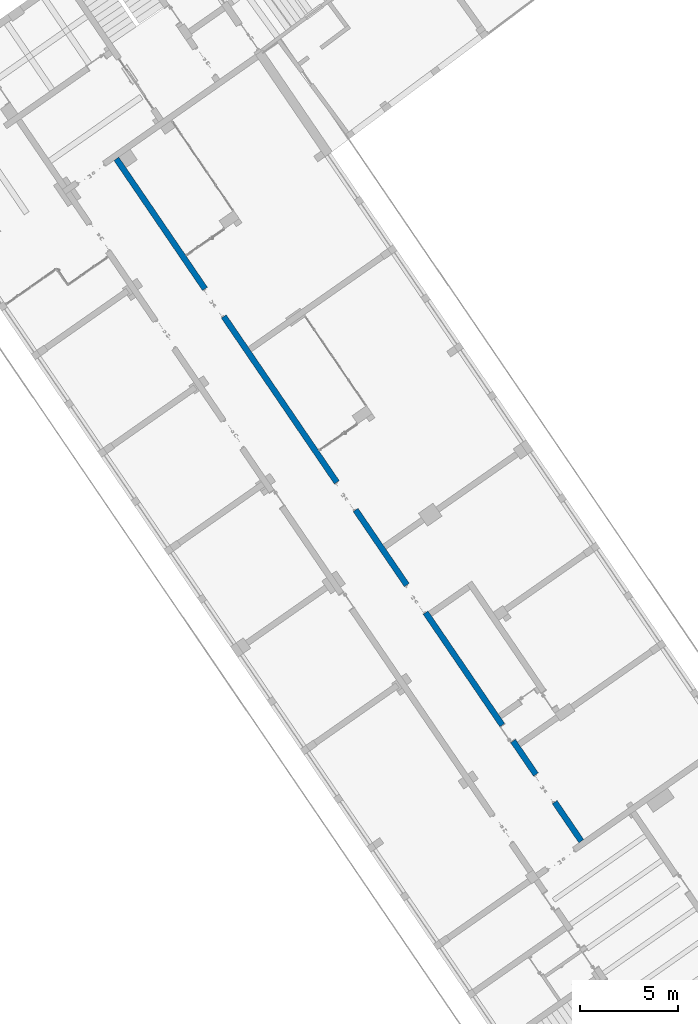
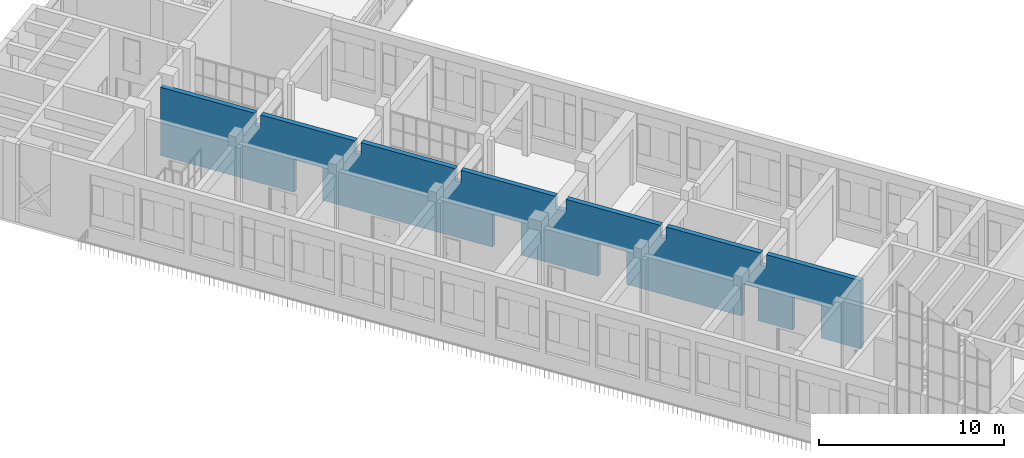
# One storey, part 125 of 157: 1 wall, 5 openings.
"""IFC2X3 building model written with IfcOpenShell, lengths in millimetres."""

from ifc_helpers import new_model, entity, si_unit, converted_unit, derived_unit, direction, frame, frame_2d, origin, place, context, subcontext, project, spatial, rectangle, extrude, faceted_brep, material, layer, layer_set, type_object, element, save


model = new_model("IFC2X3")

# Units and contexts
model_context = context("Model", 3, precision=0.01, world=origin(), true_north=direction((6.123031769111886e-17, 1.0)))
body_context = subcontext(model_context, "Body", "Model", "MODEL_VIEW")
ifc_project = project(units=[si_unit("LENGTHUNIT", "METRE", prefix="MILLI"), si_unit("AREAUNIT", "SQUARE_METRE"), si_unit("VOLUMEUNIT", "CUBIC_METRE"), converted_unit("PLANEANGLEUNIT", "DEGREE", entity("IfcRatioMeasure", 0.017453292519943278), si_unit("PLANEANGLEUNIT", "RADIAN"), dimensions=[0, 0, 0, 0, 0, 0, 0]), si_unit("MASSUNIT", "GRAM", prefix="KILO"), derived_unit("MASSDENSITYUNIT", [(si_unit("MASSUNIT", "GRAM", prefix="KILO"), 1), (si_unit("LENGTHUNIT", "METRE"), -3)]), derived_unit("MOMENTOFINERTIAUNIT", [(si_unit("LENGTHUNIT", "METRE"), 4)]), si_unit("TIMEUNIT", "SECOND"), si_unit("FREQUENCYUNIT", "HERTZ"), si_unit("THERMODYNAMICTEMPERATUREUNIT", "DEGREE_CELSIUS"), derived_unit("THERMALTRANSMITTANCEUNIT", [(si_unit("MASSUNIT", "GRAM", prefix="KILO"), 1), (si_unit("THERMODYNAMICTEMPERATUREUNIT", "KELVIN"), -1), (si_unit("TIMEUNIT", "SECOND"), -3)]), derived_unit("THERMALCONDUCTANCEUNIT", [(si_unit("MASSUNIT", "GRAM", prefix="KILO"), 1), (si_unit("LENGTHUNIT", "METRE"), 1), (si_unit("THERMODYNAMICTEMPERATUREUNIT", "KELVIN"), -1), (si_unit("TIMEUNIT", "SECOND"), -3)]), derived_unit("VOLUMETRICFLOWRATEUNIT", [(si_unit("LENGTHUNIT", "METRE"), 3), (si_unit("TIMEUNIT", "SECOND"), -1)]), derived_unit("MASSFLOWRATEUNIT", [(si_unit("MASSUNIT", "GRAM", prefix="KILO"), 1), (si_unit("TIMEUNIT", "SECOND"), -1)]), derived_unit("ROTATIONALFREQUENCYUNIT", [(si_unit("TIMEUNIT", "SECOND"), -1)]), si_unit("ELECTRICCURRENTUNIT", "AMPERE"), si_unit("ELECTRICVOLTAGEUNIT", "VOLT"), si_unit("POWERUNIT", "WATT"), converted_unit("FORCEUNIT", "KIP", entity("IfcRatioMeasure", 2.088543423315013e-05), si_unit("FORCEUNIT", "NEWTON"), dimensions=[1, 1, -2, 0, 0, 0, 0]), si_unit("ILLUMINANCEUNIT", "LUX"), si_unit("LUMINOUSFLUXUNIT", "LUMEN"), si_unit("LUMINOUSINTENSITYUNIT", "CANDELA"), derived_unit("USERDEFINED", [(si_unit("MASSUNIT", "GRAM", prefix="KILO"), -1), (si_unit("LENGTHUNIT", "METRE"), -2), (si_unit("TIMEUNIT", "SECOND"), 3), (si_unit("LUMINOUSFLUXUNIT", "LUMEN"), 1)]), derived_unit("USERDEFINED", [(si_unit("MASSUNIT", "GRAM", prefix="KILO"), 1), (si_unit("LENGTHUNIT", "METRE"), 3), (si_unit("TIMEUNIT", "SECOND"), -3), (si_unit("ELECTRICCURRENTUNIT", "AMPERE"), -2)]), derived_unit("USERDEFINED", [(si_unit("LENGTHUNIT", "METRE"), 2), (si_unit("TIMEUNIT", "SECOND"), -2)]), derived_unit("SOUNDPOWERUNIT", [(si_unit("MASSUNIT", "GRAM", prefix="KILO"), 1), (si_unit("LENGTHUNIT", "METRE"), 2), (si_unit("TIMEUNIT", "SECOND"), -3)]), derived_unit("SOUNDPRESSUREUNIT", [(si_unit("MASSUNIT", "GRAM", prefix="KILO"), 1), (si_unit("LENGTHUNIT", "METRE"), -1), (si_unit("TIMEUNIT", "SECOND"), -2)]), derived_unit("LINEARVELOCITYUNIT", [(si_unit("LENGTHUNIT", "METRE"), 1), (si_unit("TIMEUNIT", "SECOND"), -1)]), si_unit("PRESSUREUNIT", "PASCAL"), derived_unit("USERDEFINED", [(si_unit("LENGTHUNIT", "METRE"), -2), (si_unit("MASSUNIT", "GRAM", prefix="KILO"), 1), (si_unit("TIMEUNIT", "SECOND"), -2)]), derived_unit("LINEARFORCEUNIT", [(si_unit("MASSUNIT", "GRAM", prefix="KILO"), 1), (si_unit("LENGTHUNIT", "METRE"), 1), (si_unit("TIMEUNIT", "SECOND"), -2), (si_unit("LENGTHUNIT", "METRE"), -1)]), derived_unit("PLANARFORCEUNIT", [(si_unit("MASSUNIT", "GRAM", prefix="KILO"), 1), (si_unit("LENGTHUNIT", "METRE"), 1), (si_unit("TIMEUNIT", "SECOND"), -2), (si_unit("LENGTHUNIT", "METRE"), -2)]), derived_unit("SPECIFICHEATCAPACITYUNIT", [(si_unit("LENGTHUNIT", "METRE"), 2), (si_unit("TIMEUNIT", "SECOND"), -2), (si_unit("THERMODYNAMICTEMPERATUREUNIT", "KELVIN"), -1)]), derived_unit("VAPORPERMEABILITYUNIT", [(si_unit("TIMEUNIT", "SECOND"), 1), (si_unit("LENGTHUNIT", "METRE"), -1)]), derived_unit("DYNAMICVISCOSITYUNIT", [(si_unit("MASSUNIT", "GRAM", prefix="KILO"), 1), (si_unit("LENGTHUNIT", "METRE"), -1), (si_unit("TIMEUNIT", "SECOND"), -1)]), derived_unit("THERMALEXPANSIONCOEFFICIENTUNIT", [(si_unit("THERMODYNAMICTEMPERATUREUNIT", "KELVIN"), -1)])], contexts=[model_context])

# Site, building, storey
site_placement = place(None, frame((0.0, 0.0, 0.0), z_axis=(0.0, 0.0, 1.0), x_axis=(0.8191520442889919, 0.5735764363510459, 0.0)))
site = spatial("IfcSite", under=ifc_project, at=site_placement, Name="Default", CompositionType="ELEMENT")
building_placement = place(site_placement, origin())
building = spatial("IfcBuilding", under=site, at=building_placement, CompositionType="ELEMENT")
storey_placement = place(building_placement, origin())
storey = spatial("IfcBuildingStorey", under=building, at=storey_placement, Name="1.EG +0.00", CompositionType="ELEMENT", Elevation=-4.331468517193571e-12)

# Wall, openings
ifc_material = material(Name="Analytical Wall Surface_CJC")
ifc_layer = layer(ifc_material, 300.0)
ifc_layer_set = layer_set([ifc_layer], Name="Basic Wall:Wand_Innen_30")
wall_type = type_object("IfcWallType", Name="Basic Wall:Wand_Innen_30", PredefinedType="STANDARD", material=ifc_layer_set)
wall_placement = place(storey_placement, frame((-213844.2878679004, 121844.44947620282, 0.0), z_axis=(0.0, 0.0, 1.0), x_axis=(0.012729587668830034, 0.9999189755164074, 0.0)))
wall = element("IfcWall", 1, at=wall_placement, inside=storey, type_object=wall_type, Name="Basic Wall:Wand_Innen_30", ObjectType="Basic Wall:Wand_Innen_30", context=body_context, shape_type="Brep", body=[
    faceted_brep([(6029.30739781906, -150.0, 4500.0), (6029.307397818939, -150.0, 3700.0), (6004.305372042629, -150.0, 3700.0), (5704.281062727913, -150.0, 3700.0), (5679.2790369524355, -150.0, 3700.0), (5679.279036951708, -150.0, 4500.0), (3.8191857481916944, -150.0, 4500.0), (3.8191857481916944, -150.0, 0.0), (2403.311508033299, -150.0, 0.0), (2403.3115080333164, -150.0, 2200.0), (4103.311508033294, -150.0, 2200.0), (4103.311508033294, -150.0, 0.0), (5704.281062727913, -150.0, 0.0), (6004.305372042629, -150.0, 0.0), (6162.3615080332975, -150.0, 0.0), (6162.361508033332, -150.0, 2150.0), (7142.361508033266, -150.0, 2150.0), (7142.361508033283, -150.0, 0.0), (7429.4208412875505, -150.0, 0.0), (7729.445150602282, -150.0, 0.0), (13729.93133689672, -150.0, 0.0), (14029.955646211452, -150.0, 0.0), (14062.36150803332, -150.0, 0.0), (14062.361508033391, -150.0, 2200.0), (15762.361508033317, -150.0, 2200.0), (15762.361508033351, -150.0, 0.0), (17855.265589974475, -150.0, 0.0), (18155.289899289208, -150.0, 0.0), (20381.411508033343, -150.0, 0.0), (20381.411508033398, -150.0, 2200.0), (22081.41150803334, -150.0, 2200.0), (22081.411508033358, -150.0, 0.0), (30006.25011722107, -150.0, 0.0), (30306.2744265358, -150.0, 0.0), (32280.461508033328, -150.0, 0.0), (32280.461508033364, -150.0, 2200.0), (33980.46150803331, -150.0, 2200.0), (33980.461508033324, -150.0, 0.0), (41341.07938198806, -150.0, 0.0), (41982.22046403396, -150.0, 0.0), (41982.22046403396, -150.0, 4500.0), (41341.07938198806, -150.0, 4500.0), (36331.76263860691, -150.0, 4500.0), (36331.76263860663, -150.0, 3700.0), (35981.73427773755, -150.0, 3700.0), (35981.73427773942, -150.0, 4500.0), (30331.276452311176, -150.0, 4500.0), (30331.276452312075, -150.0, 3700.0), (30306.2744265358, -150.0, 3700.0), (30006.25011722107, -150.0, 3700.0), (29981.248091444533, -150.0, 3700.0), (29981.248091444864, -150.0, 4500.0), (24330.79026601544, -150.0, 4500.0), (24330.79026601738, -150.0, 3700.0), (23980.761905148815, -150.0, 3700.0), (23980.76190515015, -150.0, 4500.0), (18330.304079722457, -150.0, 4500.0), (18330.30407972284, -150.0, 3700.0), (18155.289899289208, -150.0, 3700.0), (17855.265589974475, -150.0, 3700.0), (17680.251409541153, -150.0, 3700.0), (17680.25140954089, -150.0, 4500.0), (14029.955646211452, -150.0, 4500.0), (13729.93133689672, -150.0, 4500.0), (12029.793584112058, -150.0, 4500.0), (12029.793584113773, -150.0, 3700.0), (11679.765223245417, -150.0, 3700.0), (11679.765223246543, -150.0, 4500.0), (7729.445150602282, -150.0, 4500.0), (7429.4208412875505, -150.0, 4500.0), (6025.488212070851, 150.0, 3700.0), (6025.488212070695, 150.0, 4500.0), (11675.946037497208, 150.0, 4500.0), (11675.946037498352, 150.0, 3700.0), (12025.974398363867, 150.0, 3700.0), (12025.97439836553, 150.0, 4500.0), (17676.432223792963, 150.0, 4500.0), (17676.432223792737, 150.0, 3700.0), (18326.484893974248, 150.0, 3700.0), (18326.48489397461, 150.0, 4500.0), (23976.942719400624, 150.0, 4500.0), (23976.94271940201, 150.0, 3700.0), (24326.97108026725, 150.0, 3700.0), (24326.971080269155, 150.0, 4500.0), (29977.428905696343, 150.0, 4500.0), (29977.428905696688, 150.0, 3700.0), (30327.457266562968, 150.0, 3700.0), (30327.45726656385, 150.0, 4500.0), (35977.91509198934, 150.0, 4500.0), (35977.91509199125, 150.0, 3700.0), (36327.94345285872, 150.0, 3700.0), (36327.94345285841, 150.0, 4500.0), (41978.40127828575, 150.0, 4500.0), (41978.40127828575, 150.0, 0.0), (33980.46150803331, 150.0, 0.0), (33980.46150803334, 150.0, 2200.0), (32280.461508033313, 150.0, 2200.0), (32280.461508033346, 150.0, 0.0), (22081.41150803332, 150.0, 0.0), (22081.411508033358, 150.0, 2200.0), (20381.41150803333, 150.0, 2200.0), (20381.411508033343, 150.0, 0.0), (15762.361508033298, 150.0, 0.0), (15762.361508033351, 150.0, 2200.0), (14062.361508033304, 150.0, 2200.0), (14062.361508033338, 150.0, 0.0), (7142.361508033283, 150.0, 0.0), (7142.3615080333, 150.0, 2150.0), (6162.3615080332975, 150.0, 2150.0), (6162.3615080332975, 150.0, 0.0), (4103.311508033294, 150.0, 0.0), (4103.311508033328, 150.0, 2200.0), (2403.311508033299, 150.0, 2200.0), (2403.311508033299, 150.0, 0.0), (0.0, 150.0, 0.0), (0.0, 150.0, 4500.0), (5675.459851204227, 150.0, 4500.0), (5675.459851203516, 150.0, 3700.0), (41980.94755684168, -50.0121536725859, 4500.0)], [[[0, 1, 2, 3, 4, 5, 6, 7, 8, 9, 10, 11, 12, 13, 14, 15, 16, 17, 18, 19, 20, 21, 22, 23, 24, 25, 26, 27, 28, 29, 30, 31, 32, 33, 34, 35, 36, 37, 38, 39, 40, 41, 42, 43, 44, 45, 46, 47, 48, 49, 50, 51, 52, 53, 54, 55, 56, 57, 58, 59, 60, 61, 62, 63, 64, 65, 66, 67, 68, 69]], [[70, 71, 72, 73, 74, 75, 76, 77, 78, 79, 80, 81, 82, 83, 84, 85, 86, 87, 88, 89, 90, 91, 92, 93, 94, 95, 96, 97, 98, 99, 100, 101, 102, 103, 104, 105, 106, 107, 108, 109, 110, 111, 112, 113, 114, 115, 116, 117]], [[7, 114, 113, 8]], [[42, 41, 40, 118, 92, 91]], [[70, 1, 0, 71]], [[4, 117, 116, 5]], [[1, 70, 117, 4, 3, 2]], [[86, 47, 46, 87]], [[50, 85, 84, 51]], [[47, 86, 85, 50, 49, 48]], [[90, 43, 42, 91]], [[44, 89, 88, 45]], [[43, 90, 89, 44]], [[82, 53, 52, 83]], [[54, 81, 80, 55]], [[53, 82, 81, 54]], [[74, 65, 64, 75]], [[66, 73, 72, 67]], [[65, 74, 73, 66]], [[60, 77, 76, 61]], [[78, 57, 56, 79]], [[77, 60, 59, 58, 57, 78]], [[7, 6, 115, 114]], [[40, 39, 93, 92, 118]], [[16, 107, 106, 17]], [[107, 16, 15, 108]], [[108, 15, 14, 109]], [[10, 111, 110, 11]], [[111, 10, 9, 112]], [[112, 9, 8, 113]], [[24, 103, 102, 25]], [[103, 24, 23, 104]], [[104, 23, 22, 105]], [[30, 99, 98, 31]], [[99, 30, 29, 100]], [[100, 29, 28, 101]], [[36, 95, 94, 37]], [[95, 36, 35, 96]], [[96, 35, 34, 97]], [[51, 84, 83, 52]], [[55, 80, 79, 56]], [[6, 5, 116, 115]], [[87, 46, 45, 88]], [[75, 64, 63, 62, 61, 76]], [[71, 0, 69, 68, 67, 72]], [[17, 106, 105, 22, 21, 20, 19, 18]], [[25, 102, 101, 28, 27, 26]], [[31, 98, 97, 34, 33, 32]], [[93, 39, 38, 37, 94]], [[109, 14, 13, 12, 11, 110]]]),
])
opening_1_placement = place(wall_placement, frame((6162.3615080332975, -150.0, 0.0)))
element("IfcOpeningElement", 2, at=opening_1_placement, cuts=wall, Name="Doors_IntSgl:90x210:1", ObjectType="Opening", context=body_context, shape_type="SweptSolid", body=[
    extrude(rectangle(XDim=2150.000000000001, YDim=979.9999999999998, at=frame_2d((1075.0000000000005, 489.9999999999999), x_axis=(1.0, 0.0))), frame((0.0, 0.0, 0.0), z_axis=(0.0, 1.0, 0.0), x_axis=(0.0, 0.0, 1.0)), (0.0, 0.0, 1.0), 299.9999999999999),
])
opening_2_placement = place(wall_placement, frame((2403.311508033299, -150.0, 0.0)))
element("IfcOpeningElement", 3, at=opening_2_placement, cuts=wall, Name="M_Door-Passage-Double-Flush:160x210:1", ObjectType="Opening", context=body_context, shape_type="SweptSolid", body=[
    extrude(rectangle(XDim=2200.0, YDim=1699.9999999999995, at=frame_2d((1100.0, 849.9999999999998), x_axis=(1.0, 0.0))), frame((0.0, 0.0, 0.0), z_axis=(0.0, 1.0, 0.0), x_axis=(0.0, 0.0, 1.0)), (0.0, 0.0, 1.0), 299.9999999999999),
])
opening_3_placement = place(wall_placement, frame((14062.361508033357, -150.0, 0.0)))
element("IfcOpeningElement", 4, at=opening_3_placement, cuts=wall, Name="M_Door-Passage-Double-Flush:160x210:1", ObjectType="Opening", context=body_context, shape_type="SweptSolid", body=[
    extrude(rectangle(XDim=2200.0, YDim=1699.9999999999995, at=frame_2d((1100.0, 849.9999999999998), x_axis=(1.0, 0.0))), frame((0.0, 0.0, 0.0), z_axis=(0.0, 1.0, 0.0), x_axis=(0.0, 0.0, 1.0)), (0.0, 0.0, 1.0), 299.9999999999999),
])
opening_4_placement = place(wall_placement, frame((20381.41150803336, -150.0, 0.0)))
element("IfcOpeningElement", 5, at=opening_4_placement, cuts=wall, Name="M_Door-Passage-Double-Flush:160x210:1", ObjectType="Opening", context=body_context, shape_type="SweptSolid", body=[
    extrude(rectangle(XDim=2200.0, YDim=1699.9999999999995, at=frame_2d((1100.0, 849.9999999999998), x_axis=(1.0, 0.0))), frame((0.0, 0.0, 0.0), z_axis=(0.0, 1.0, 0.0), x_axis=(0.0, 0.0, 1.0)), (0.0, 0.0, 1.0), 299.9999999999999),
])
opening_5_placement = place(wall_placement, frame((32280.461508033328, -150.0, 0.0)))
element("IfcOpeningElement", 6, at=opening_5_placement, cuts=wall, Name="M_Door-Passage-Double-Flush:160x210:1", ObjectType="Opening", context=body_context, shape_type="SweptSolid", body=[
    extrude(rectangle(XDim=2200.0, YDim=1699.9999999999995, at=frame_2d((1100.0, 849.9999999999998), x_axis=(1.0, 0.0))), frame((0.0, 0.0, 0.0), z_axis=(0.0, 1.0, 0.0), x_axis=(0.0, 0.0, 1.0)), (0.0, 0.0, 1.0), 299.9999999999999),
])

save(model, "model.ifc")
